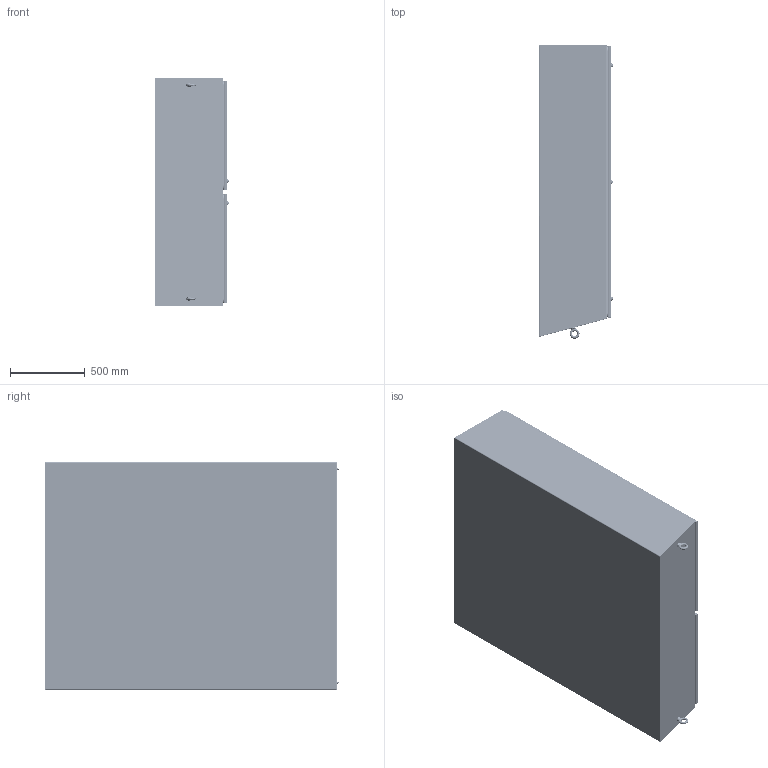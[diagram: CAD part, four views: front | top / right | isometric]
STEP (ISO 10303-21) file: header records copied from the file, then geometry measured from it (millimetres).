
FILE_DESCRIPTION((''),'2;1');
FILE_NAME('MODEL-470_ASM','2026-06-16T10:43:31',('andrew.knowlton'),('SAGINAW CONTROL & ENGINEERING'),'CREO PARAMETRIC BY PTC INC, 2021284','CREO PARAMETRIC BY PTC INC, 2021284','');
FILE_SCHEMA(('AUTOMOTIVE_DESIGN { 1 0 10303 214 1 1 1 1 }'));
Length unit declared in the file: inch
Products named in the file (62): MODEL-470-BTM; MODEL-470-RS; MODEL-470-LS; MODEL-470-BCK; MODEL-470-TP; 128026; 100024; 128026_ASM; MODEL-470-CCA-CHNL; MODEL-470-CCA-STIF; 100067; 129753; 129751; 102535; MODEL-470-CCASSY_ASM; MODEL-470-RH-DR; 100837; 100882; 111267; 116397_SHAFT; 116397_NUT; 116397_INSERT; 116397_SCREW; 116397_OUTER_O-RING; 116397_SUBASSEMBLY_ASM; 116397_CAM; 116397_INNER_O-RING; 116397_ASM; 129123; 129137; 129137_ASM; 101226; 102483; MODEL-470-RH-POUR-GSKT; MODEL-470-RH-EDGE-GSKT; 125597; MODEL-470-RH-DOOR-ASSY_ASM; MODEL-470-LH-DR; MODEL-470-LH-POUR-GSKT; MODEL-470-LH-EDGE-GSKT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
Assembly tree (195 placements, depth 5):
  MODEL-470_ASM
    MODEL-470-BTM
    MODEL-470-RS
    MODEL-470-LS
    MODEL-470-BCK
    MODEL-470-TP
    128026_ASM  x2
      128026
      100024
    MODEL-470-CCASSY_ASM
      MODEL-470-CCA-CHNL
      MODEL-470-CCA-STIF
      100067  x2
      129753  x2
      129751  x2
      102535  x8
    MODEL-470-RH-DOOR-ASSY_ASM
      MODEL-470-RH-DR
      100837  x10
      100882  x6
      111267
      116397_ASM  x3
        116397_SUBASSEMBLY_ASM
          116397_SHAFT
          116397_NUT
          116397_INSERT
          116397_SCREW
          116397_OUTER_O-RING
        116397_CAM
        116397_INNER_O-RING
      129123  x4
      129137_ASM  x4
        129137
      101226  x4
      102483  x8
      MODEL-470-RH-POUR-GSKT
      MODEL-470-RH-EDGE-GSKT
      125597
    MODEL-470-LH-DOOR-ASSY_ASM
      MODEL-470-LH-DR
      100837  x8
      116397_ASM  x3
        116397_SUBASSEMBLY_ASM
          116397_SHAFT
          116397_NUT
          116397_INSERT
          116397_SCREW
          116397_OUTER_O-RING
        116397_CAM
        116397_INNER_O-RING
      129123  x4
      129137_ASM  x4
        129137
      101226  x4
      100882  x4
      102483  x8
      MODEL-470-LH-POUR-GSKT
      MODEL-470-LH-EDGE-GSKT
    100837  x10
    101653  x8
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Bounding box: 497.08 x 1962.89 x 1524 mm (x, y, z)
Volume: 35736004.2 mm3; surface area: 27227447.9 mm2
Topology: 256 solids, 256 shells, 14630 faces, 37068 edges, 23062 vertices
Faces by surface type: plane 5685, cylinder 3387, bspline 2974, torus 1172, cone 770, sphere 436, extrusion 182, revolution 24
Entity records: 198630 total; most frequent: CARTESIAN_POINT 66469, ORIENTED_EDGE 18640, DIRECTION 18325, PRESENTATION_STYLE_ASSIGNMENT 9929, STYLED_ITEM 9927, EDGE_CURVE 9320, CURVE_STYLE 9266, AXIS2_PLACEMENT_3D 6785
